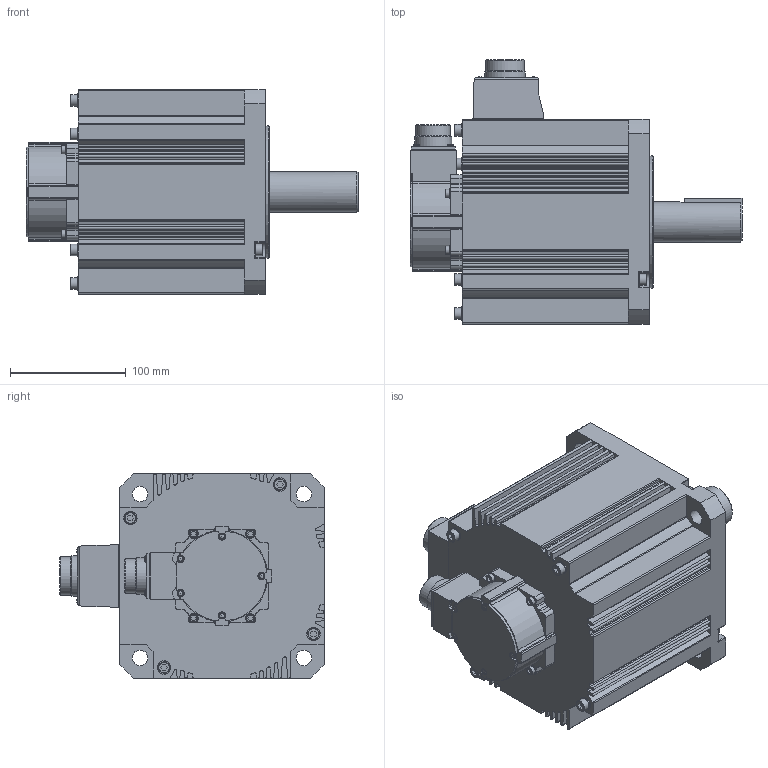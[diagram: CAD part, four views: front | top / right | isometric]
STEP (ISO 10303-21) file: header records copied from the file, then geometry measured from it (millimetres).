
FILE_DESCRIPTION(/* description */ ('STEP AP203'),/* implementation_level */ '2;1');
FILE_NAME(/* name */ 'MHMF502L1G6 2JL10',/* time_stamp */ '2023-07-08T15:23:29+02:00',/* author */ ('License CC BY-ND 4.0'),/* organization */ ('CADENAS'),/* preprocessor_version */ 'ST-DEVELOPER v19.3',/* originating_system */ 'PARTsolutions',/* authorisation */ ' ');
FILE_SCHEMA (('CONFIG_CONTROL_DESIGN'));
Length unit declared in the file: millimetre
Products named in the file (2): MHMF502L1G6 2JL10; MHMF502L1G6 _body
Assembly tree (1 placements, depth 2):
  MHMF502L1G6 2JL10
    MHMF502L1G6 _body
Bounding box: 286.5 x 228.3 x 176.6 mm (x, y, z)
Volume: 4947079.2 mm3; surface area: 260130.1 mm2
Topology: 1 solids, 1 shells, 608 faces, 1640 edges, 1079 vertices
Faces by surface type: plane 287, cylinder 266, cone 24, torus 18, sphere 13
Full cylindrical faces by diameter (mm): 2.459 x1, 5.6 x5, 7 x4, 8 x4, 10 x8, 11.5 x8, 13.5 x4, 29.75 x1, 31.75 x1, 33 x1, 35 x2, 52 x1, 58 x1, 67 x1, 105 x1, 114.3 x1
Entity records: 18519 total; most frequent: CARTESIAN_POINT 3323, DIRECTION 3251, ORIENTED_EDGE 3022, EDGE_CURVE 1511, AXIS2_PLACEMENT_3D 1169, VERTEX_POINT 1044, LINE 913, VECTOR 913
